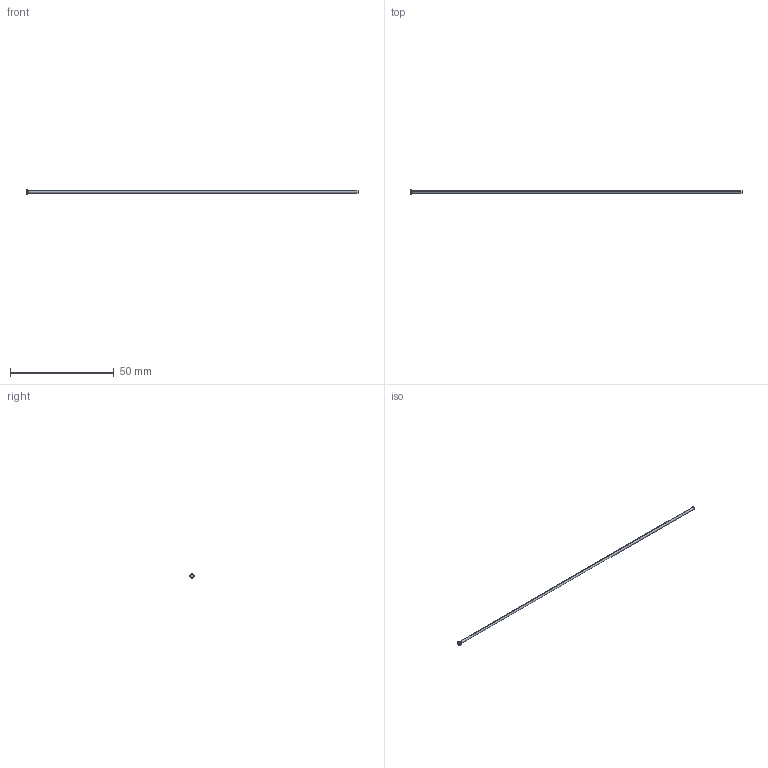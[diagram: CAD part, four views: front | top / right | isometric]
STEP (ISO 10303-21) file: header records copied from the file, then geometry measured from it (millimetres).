
FILE_DESCRIPTION (( 'STEP AP214' ), '1' );
FILE_NAME ('D-1,25x160.STEP', '2020-06-08T09:45:51', ( 'August' ), ( '' ), 'SwSTEP 2.0', 'SolidWorks 2018', '' );
FILE_SCHEMA (( 'AUTOMOTIVE_DESIGN' ));
Length unit declared in the file: millimetre
Products named in the file (1): D-1,25x160
Bounding box: 160 x 2 x 2 mm (x, y, z)
Volume: 197.9 mm3; surface area: 635.1 mm2
Topology: 1 solids, 1 shells, 10 faces, 18 edges, 10 vertices
Faces by surface type: cylinder 4, torus 2, cone 2, plane 2
Entity records: 280 total; most frequent: DIRECTION 52, CARTESIAN_POINT 39, ORIENTED_EDGE 36, AXIS2_PLACEMENT_3D 23, EDGE_CURVE 18, CIRCLE 12, ADVANCED_FACE 10, VERTEX_POINT 10
